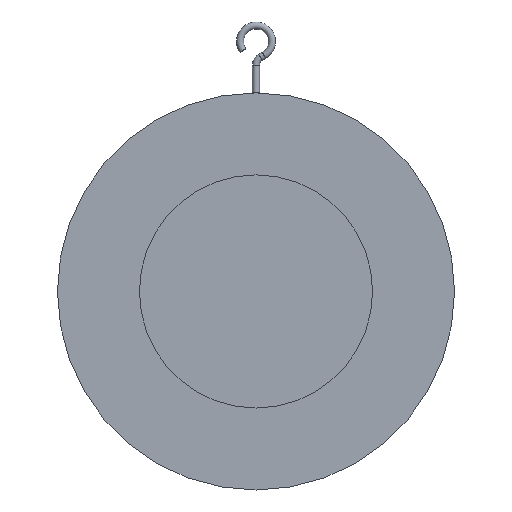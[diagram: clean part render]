
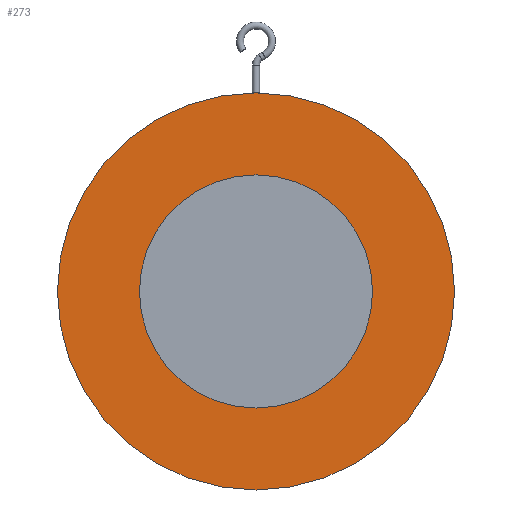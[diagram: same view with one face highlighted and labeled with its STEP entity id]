
A CAD part, front view. The second image highlights one B-rep face of the part: STEP entity #273.
In plain terms, the highlighted planar face has unit normal (0, -1, 0).
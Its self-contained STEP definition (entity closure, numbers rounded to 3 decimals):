
#273=ADVANCED_FACE('',(#525,#527),#529,.T.);
#525=FACE_BOUND('',#526,.T.);
#526=EDGE_LOOP('',(#702));
#527=FACE_BOUND('',#528,.T.);
#528=EDGE_LOOP('',(#703));
#529=PLANE('',#530);
#530=AXIS2_PLACEMENT_3D('',#531,#532,#533);
#531=CARTESIAN_POINT('',(0.,-19.,0.));
#532=DIRECTION('',(0.,-1.,0.));
#533=DIRECTION('',(0.,0.,1.));
#702=ORIENTED_EDGE('',*,*,#772,.F.);
#703=ORIENTED_EDGE('',*,*,#774,.T.);
#772=EDGE_CURVE('',#877,#877,#878,.T.);
#774=EDGE_CURVE('',#881,#881,#882,.T.);
#877=VERTEX_POINT('',#1363);
#878=CIRCLE('',#1364,224.);
#881=VERTEX_POINT('',#1373);
#882=CIRCLE('',#1374,131.5);
#1363=CARTESIAN_POINT('',(0.,-19.,224.));
#1364=AXIS2_PLACEMENT_3D('',#1365,#1366,#1367);
#1365=CARTESIAN_POINT('',(0.,-19.,0.));
#1366=DIRECTION('',(0.,1.,0.));
#1367=DIRECTION('',(0.,0.,1.));
#1373=CARTESIAN_POINT('',(0.,-19.,131.5));
#1374=AXIS2_PLACEMENT_3D('',#1375,#1376,#1377);
#1375=CARTESIAN_POINT('',(0.,-19.,0.));
#1376=DIRECTION('',(0.,1.,0.));
#1377=DIRECTION('',(0.,0.,1.));
